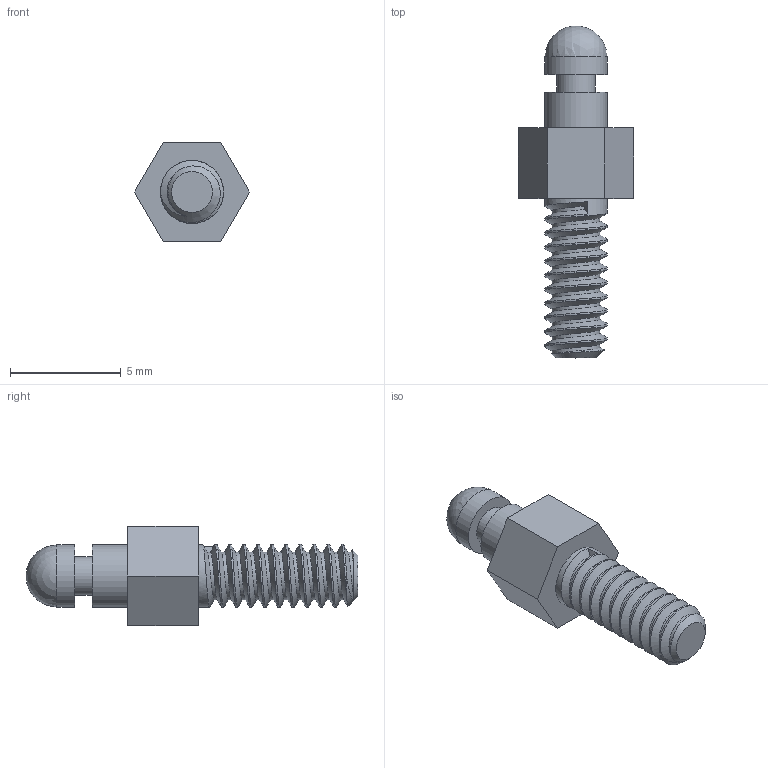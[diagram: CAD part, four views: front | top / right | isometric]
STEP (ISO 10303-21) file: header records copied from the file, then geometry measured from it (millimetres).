
FILE_DESCRIPTION (( 'STEP AP203' ), '1' );
FILE_NAME ('QLOCKPOST440-5.STEP', '2026-06-16T12:28:53', ( '' ), ( '' ), 'SwSTEP 2.0', 'SolidWorks 2020', '' );
FILE_SCHEMA (( 'CONFIG_CONTROL_DESIGN' ));
Length unit declared in the file: millimetre
Products named in the file (1): QLOCKPOST440-5
Bounding box: 5.2 x 14.99 x 4.5 mm (x, y, z)
Volume: 113.4 mm3; surface area: 209.2 mm2
Topology: 1 solids, 1 shells, 32 faces, 83 edges, 55 vertices
Faces by surface type: cylinder 14, plane 13, bspline 3, sphere 1, cone 1
Full cylindrical faces by diameter (mm): 1.75 x1, 2.8 x2, 2.845 x10
Entity records: 1995 total; most frequent: CARTESIAN_POINT 1498, ORIENTED_EDGE 82, DIRECTION 78, EDGE_CURVE 41, EDGE_LOOP 31, AXIS2_PLACEMENT_3D 30, VERTEX_POINT 30, FACE_OUTER_BOUND 26
